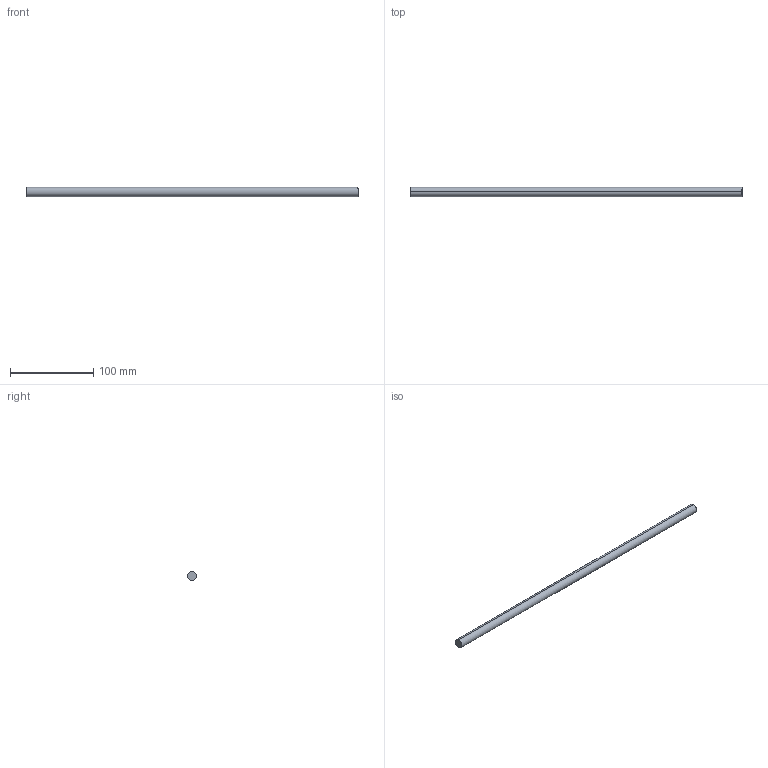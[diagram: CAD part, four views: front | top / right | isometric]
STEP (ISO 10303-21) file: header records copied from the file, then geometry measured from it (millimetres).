
FILE_DESCRIPTION (( 'STEP AP214' ), '1' );
FILE_NAME ('Querreling_2S-Rel_7102_KAB-500.step', '2010-09-22T15:05:52', ( 'grass' ), ( '' ), 'SwSTEP 2.0', 'SolidWorks 2010', '' );
FILE_SCHEMA (( 'AUTOMOTIVE_DESIGN' ));
Length unit declared in the file: millimetre
Products named in the file (1): Querreling_2S-Rel_7102_KAB-500
Bounding box: 399 x 11 x 11 mm (x, y, z)
Volume: 37918.2 mm3; surface area: 13978.5 mm2
Topology: 1 solids, 1 shells, 4 faces, 6 edges, 4 vertices
Faces by surface type: cylinder 2, plane 2
Entity records: 128 total; most frequent: DIRECTION 20, CARTESIAN_POINT 15, ORIENTED_EDGE 12, AXIS2_PLACEMENT_3D 9, EDGE_CURVE 6, VERTEX_POINT 4, EDGE_LOOP 4, CIRCLE 4
